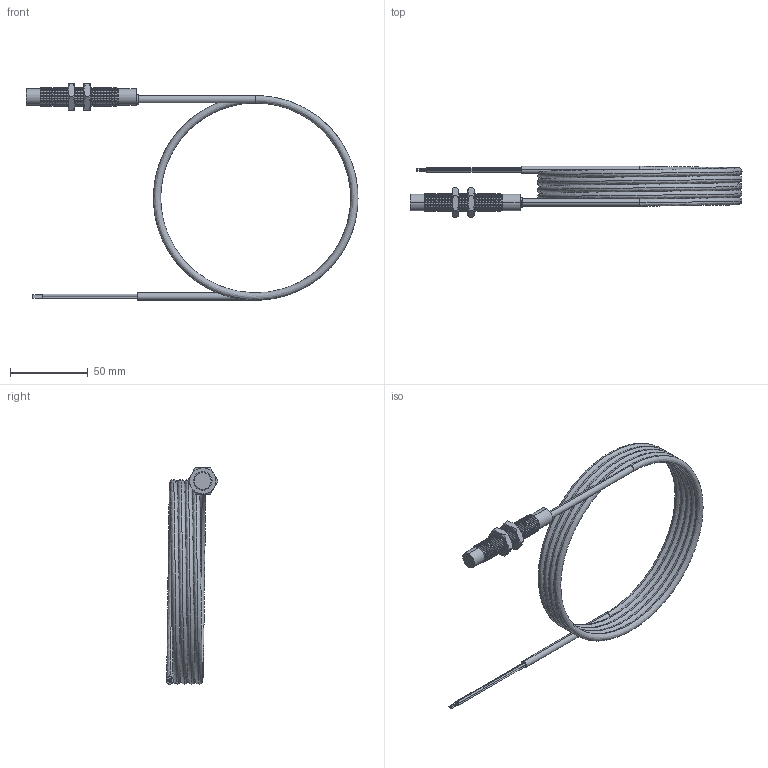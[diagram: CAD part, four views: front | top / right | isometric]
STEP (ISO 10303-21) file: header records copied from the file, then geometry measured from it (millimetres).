
FILE_DESCRIPTION (( 'STEP AP203' ), '1' );
FILE_NAME ('90-XXXX-005.STEP', '2015-08-31T03:14:01', ( 'Sam' ), ( 'Spade' ), 'SwSTEP 2.0', 'SolidWorks 2002296', '' );
FILE_SCHEMA (( 'CONFIG_CONTROL_DESIGN' ));
Length unit declared in the file: inch
Products named in the file (15): 90-XXXX-005; Imported9; Imported13; Imported12; Imported11; Imported10; Imported16; Imported15; Imported14; Imported19; Imported18; Imported17; Imported22; Imported21; Imported20
Assembly tree (14 placements, depth 2):
  90-XXXX-005
    Imported10
    Imported17
    Imported22
    Imported13
    Imported14
    Imported18
    Imported15
    Imported12
    Imported20
    Imported9
    Imported21
    Imported16
    Imported11
    Imported19
Bounding box: 213.75 x 33.35 x 139.31 mm (x, y, z)
Volume: 42742.9 mm3; surface area: 35630.2 mm2
Topology: 14 solids, 14 shells, 449 faces, 924 edges, 506 vertices
Faces by surface type: cone 264, cylinder 130, plane 43, bspline 12
Entity records: 14850 total; most frequent: CARTESIAN_POINT 3629, DIRECTION 2262, ORIENTED_EDGE 1848, AXIS2_PLACEMENT_3D 940, EDGE_CURVE 924, VERTEX_POINT 506, CIRCLE 486, EDGE_LOOP 456
